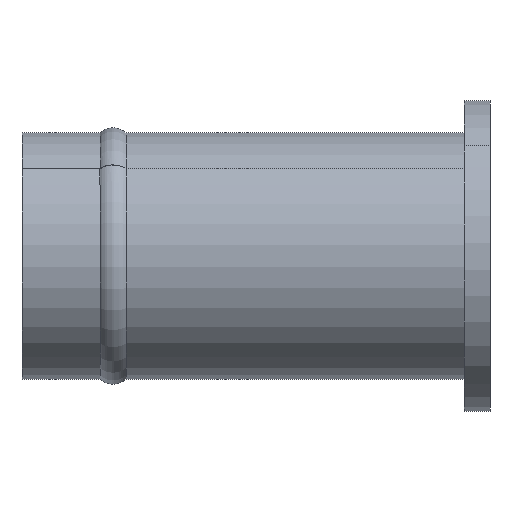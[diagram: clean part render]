
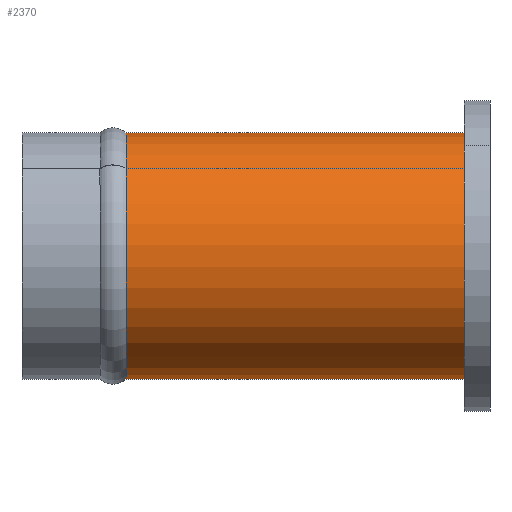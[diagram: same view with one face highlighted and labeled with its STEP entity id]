
A CAD part, front view. The second image highlights one B-rep face of the part: STEP entity #2370.
In plain terms, the highlighted cylindrical face has radius 4.75 mm (diameter 9.5 mm), a partial arc.
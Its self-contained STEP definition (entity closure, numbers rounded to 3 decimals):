
#680=CARTESIAN_POINT('',(3.362,-3.355,14.));
#690=VERTEX_POINT('',#680);
#740=CARTESIAN_POINT('',(3.362,-3.355,0.));
#750=DIRECTION('',(0.,0.,1.));
#760=VECTOR('',#750,1.);
#770=LINE('',#740,#760);
#780=CARTESIAN_POINT('',(3.362,-3.355,1.));
#790=VERTEX_POINT('',#780);
#800=EDGE_CURVE('',#790,#690,#770,.T.);
#1440=CARTESIAN_POINT('',(3.355,-3.362,14.));
#1450=VERTEX_POINT('',#1440);
#1830=CARTESIAN_POINT('',(3.355,-3.362,1.));
#1840=VERTEX_POINT('',#1830);
#1870=CARTESIAN_POINT('',(3.355,-3.362,0.));
#1880=DIRECTION('',(0.,0.,1.));
#1890=VECTOR('',#1880,1.);
#1900=LINE('',#1870,#1890);
#1910=EDGE_CURVE('',#1840,#1450,#1900,.T.);
#2020=CARTESIAN_POINT('',(0.,0.,1.));
#2030=DIRECTION('',(0.,0.,1.));
#2040=DIRECTION('',(1.,0.,0.));
#2050=AXIS2_PLACEMENT_3D('',#2020,#2030,#2040);
#2060=CIRCLE('',#2050,4.75);
#2070=EDGE_CURVE('',#790,#1840,#2060,.T.);
#2200=CARTESIAN_POINT('',(0.,0.,0.));
#2210=DIRECTION('',(0.,0.,1.));
#2220=DIRECTION('',(1.,0.,0.));
#2230=AXIS2_PLACEMENT_3D('',#2200,#2210,#2220);
#2240=CYLINDRICAL_SURFACE('',#2230,4.75);
#2250=ORIENTED_EDGE('',*,*,#1910,.T.);
#2260=ORIENTED_EDGE('',*,*,#2070,.T.);
#2270=ORIENTED_EDGE('',*,*,#800,.F.);
#2280=CARTESIAN_POINT('',(0.,0.,14.)
);
#2290=DIRECTION('',(0.,0.,-1.));
#2300=DIRECTION('',(1.,0.,0.));
#2310=AXIS2_PLACEMENT_3D('',#2280,#2290,#2300);
#2320=CIRCLE('',#2310,4.75);
#2330=EDGE_CURVE('',#1450,#690,#2320,.T.);
#2340=ORIENTED_EDGE('',*,*,#2330,.T.);
#2350=EDGE_LOOP('',(#2340,#2270,#2260,#2250));
#2360=FACE_OUTER_BOUND('',#2350,.T.);
#2370=ADVANCED_FACE('',(#2360),#2240,.T.);
